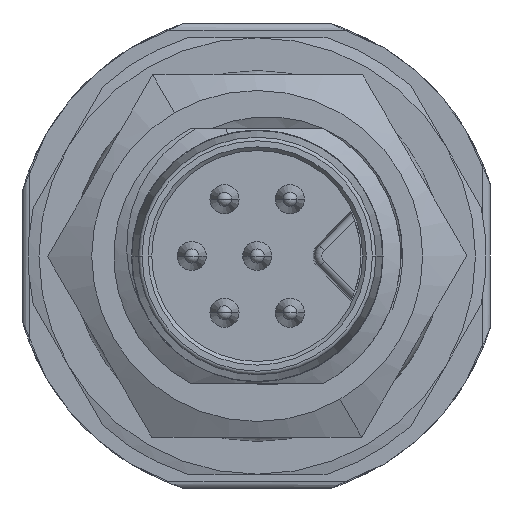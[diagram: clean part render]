
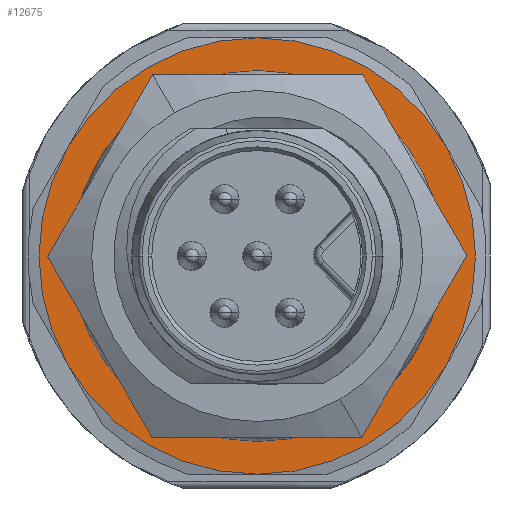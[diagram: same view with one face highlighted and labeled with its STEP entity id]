
A CAD part, left-side view. The second image highlights one B-rep face of the part: STEP entity #12675.
In plain terms, the highlighted planar face has unit normal (-1, 0, 0).
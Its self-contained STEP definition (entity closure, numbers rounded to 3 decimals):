
#1847=CARTESIAN_POINT('',(-2.,0.,0.));
#1848=DIRECTION('',(1.,0.,0.));
#1849=DIRECTION('',(0.,0.,-1.));
#1850=AXIS2_PLACEMENT_3D('',#1847,#1848,#1849);
#1852=CARTESIAN_POINT('',(-2.,0.,0.));
#1853=DIRECTION('',(1.,0.,0.));
#1854=DIRECTION('',(0.,0.866,-0.5));
#1855=AXIS2_PLACEMENT_3D('',#1852,#1853,#1854);
#1857=CARTESIAN_POINT('',(-2.,0.,0.));
#1858=DIRECTION('',(1.,0.,0.));
#1859=DIRECTION('',(0.,0.866,0.5));
#1860=AXIS2_PLACEMENT_3D('',#1857,#1858,#1859);
#1862=CARTESIAN_POINT('',(-2.,0.,0.));
#1863=DIRECTION('',(1.,0.,0.));
#1864=DIRECTION('',(0.,0.,1.));
#1865=AXIS2_PLACEMENT_3D('',#1862,#1863,#1864);
#1867=CARTESIAN_POINT('',(-2.,0.,0.));
#1868=DIRECTION('',(1.,0.,0.));
#1869=DIRECTION('',(0.,-0.866,0.5));
#1870=AXIS2_PLACEMENT_3D('',#1867,#1868,#1869);
#1872=CARTESIAN_POINT('',(-2.,0.,0.));
#1873=DIRECTION('',(1.,0.,0.));
#1874=DIRECTION('',(0.,-0.866,-0.5));
#1875=AXIS2_PLACEMENT_3D('',#1872,#1873,#1874);
#1877=DIRECTION('',(0.,-1.,0.));
#1878=VECTOR('',#1877,1.221);
#1879=CARTESIAN_POINT('',(-2.,0.61,-3.7));
#1880=LINE('',#1879,#1878);
#1881=DIRECTION('',(0.,1.,0.));
#1882=VECTOR('',#1881,1.221);
#1883=CARTESIAN_POINT('',(-2.,-0.61,3.7));
#1884=LINE('',#1883,#1882);
#1935=CARTESIAN_POINT('',(-2.,0.,0.));
#1936=DIRECTION('',(1.,0.,0.));
#1937=DIRECTION('',(0.,0.163,-0.987));
#1938=AXIS2_PLACEMENT_3D('',#1935,#1936,#1937);
#1965=CARTESIAN_POINT('',(-2.,0.,0.));
#1966=DIRECTION('',(1.,0.,0.));
#1967=DIRECTION('',(0.,-0.163,0.987));
#1968=AXIS2_PLACEMENT_3D('',#1965,#1966,#1967);
#9215=CARTESIAN_POINT('',(-2.,0.61,-3.7));
#9216=CARTESIAN_POINT('',(-2.,0.61,3.7));
#9217=VERTEX_POINT('',#9215);
#9218=VERTEX_POINT('',#9216);
#9223=CARTESIAN_POINT('',(-2.,-0.61,3.7));
#9224=CARTESIAN_POINT('',(-2.,-0.61,-3.7));
#9225=VERTEX_POINT('',#9223);
#9226=VERTEX_POINT('',#9224);
#9433=CARTESIAN_POINT('',(-2.,0.,-6.));
#9434=CARTESIAN_POINT('',(-2.,5.196,-3.));
#9435=VERTEX_POINT('',#9433);
#9436=VERTEX_POINT('',#9434);
#9437=CARTESIAN_POINT('',(-2.,5.196,3.));
#9438=VERTEX_POINT('',#9437);
#9439=CARTESIAN_POINT('',(-2.,0.,6.));
#9440=VERTEX_POINT('',#9439);
#9441=CARTESIAN_POINT('',(-2.,-5.196,3.));
#9442=VERTEX_POINT('',#9441);
#9443=CARTESIAN_POINT('',(-2.,-5.196,-3.));
#9444=VERTEX_POINT('',#9443);
#12647=CARTESIAN_POINT('',(-2.,0.,0.));
#12648=DIRECTION('',(1.,0.,0.));
#12649=DIRECTION('',(0.,-1.,0.));
#12650=AXIS2_PLACEMENT_3D('',#12647,#12648,#12649);
#12651=PLANE('',#12650);
#12652=ORIENTED_EDGE('',*,*,#12642,.T.);
#12654=ORIENTED_EDGE('',*,*,#12653,.T.);
#12656=ORIENTED_EDGE('',*,*,#12655,.T.);
#12658=ORIENTED_EDGE('',*,*,#12657,.T.);
#12660=ORIENTED_EDGE('',*,*,#12659,.T.);
#12662=ORIENTED_EDGE('',*,*,#12661,.T.);
#12663=EDGE_LOOP('',(#12652,#12654,#12656,#12658,#12660,#12662));
#12664=FACE_OUTER_BOUND('',#12663,.F.);
#12666=ORIENTED_EDGE('',*,*,#12665,.F.);
#12668=ORIENTED_EDGE('',*,*,#12667,.T.);
#12670=ORIENTED_EDGE('',*,*,#12669,.F.);
#12672=ORIENTED_EDGE('',*,*,#12671,.T.);
#12673=EDGE_LOOP('',(#12666,#12668,#12670,#12672));
#12674=FACE_BOUND('',#12673,.F.);
#12675=ADVANCED_FACE('',(#12664,#12674),#12651,.F.);
#1851=CIRCLE('',#1850,6.);
#1856=CIRCLE('',#1855,6.);
#1861=CIRCLE('',#1860,6.);
#1866=CIRCLE('',#1865,6.);
#1871=CIRCLE('',#1870,6.);
#1876=CIRCLE('',#1875,6.);
#1939=CIRCLE('',#1938,3.75);
#1969=CIRCLE('',#1968,3.75);
#12642=EDGE_CURVE('',#9435,#9436,#1851,.T.);
#12653=EDGE_CURVE('',#9436,#9438,#1856,.T.);
#12655=EDGE_CURVE('',#9438,#9440,#1861,.T.);
#12657=EDGE_CURVE('',#9440,#9442,#1866,.T.);
#12659=EDGE_CURVE('',#9442,#9444,#1871,.T.);
#12661=EDGE_CURVE('',#9444,#9435,#1876,.T.);
#12665=EDGE_CURVE('',#9217,#9218,#1939,.T.);
#12667=EDGE_CURVE('',#9217,#9226,#1880,.T.);
#12669=EDGE_CURVE('',#9225,#9226,#1969,.T.);
#12671=EDGE_CURVE('',#9225,#9218,#1884,.T.);
